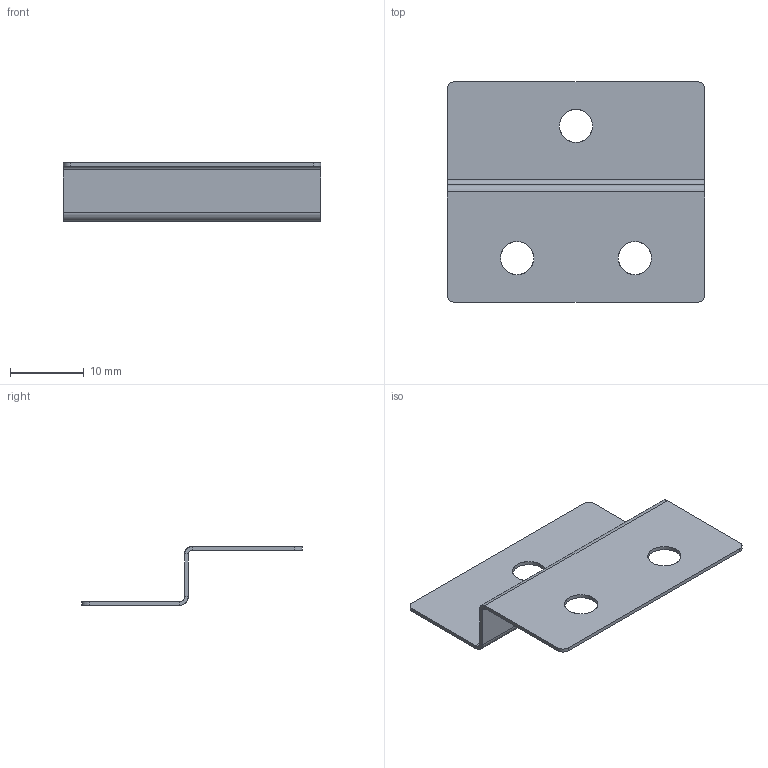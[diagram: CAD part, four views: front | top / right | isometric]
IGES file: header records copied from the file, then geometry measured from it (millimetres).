
Start section: SolidWorks IGES file using analytic representation for surfaces
Bounding box: 35 x 30 x 8 mm (x, y, z)
Surface area: 2567.8 mm2 (no closed solid volume)
Topology: 0 solids, 0 shells, 32 faces, 424 edges, 424 vertices
Faces by surface type: bspline 18, revolution 14
